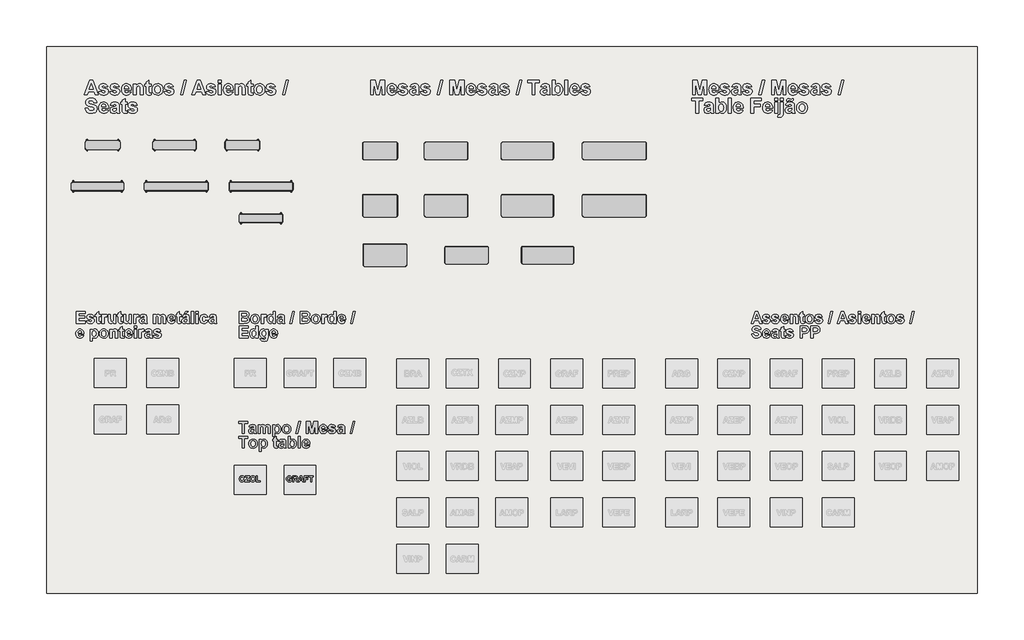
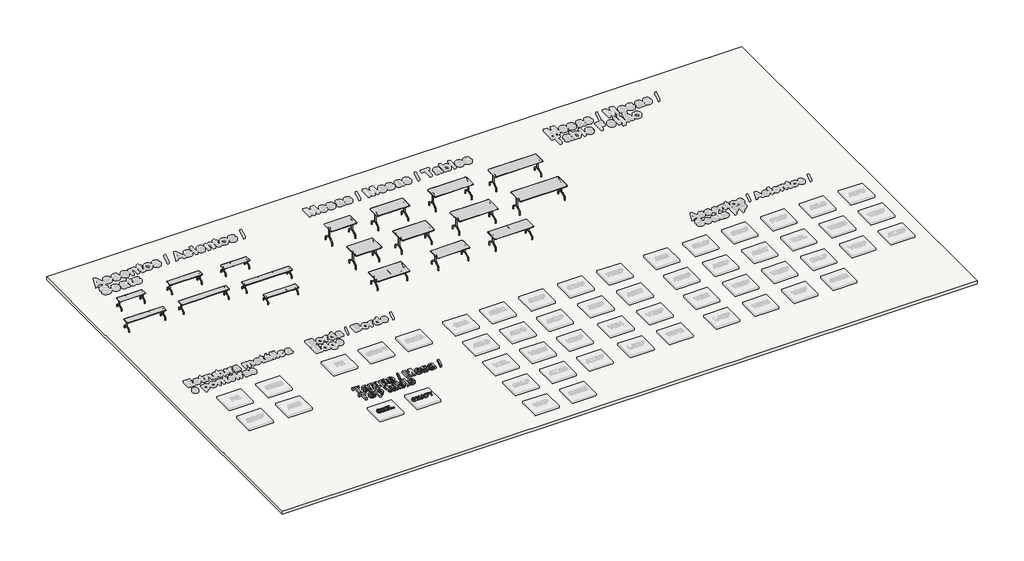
# One storey, part 1 of 11: 18 furniture elements, 3 proxies, 1 slab.
"""IFC4 building model written with IfcOpenShell, lengths in millimetres."""

from ifc_helpers import new_model, si_unit, frame, origin, origin_with_axes, place, context, project, spatial, polyline, outline, extrude, transform, mapped, element, save
from components import furniture_0498835a, furniture_3e3c8377, furniture_5cd1a622, furniture_715b6826, furniture_a52aa003, furniture_f09781c6, furniture_1bd29a56, furniture_cf2eff68, furniture_0d78d3c2, furniture_bbbb178f, furniture_98b8466e, furniture_68d484b3, furniture_bdeea453, furniture_ba796456, furniture_8e6bd64b, furniture_b150109e, furniture_8f38371c, furniture_67700c2b, furniture_3dd5c9f9, furniture_42522983, furniture_62db9295, furniture_35113301, furniture_2471150e, furniture_5e96de39, furniture_81a5dd6e, furniture_9fd08052, furniture_0e918ce6, furniture_eb693cab, furniture_b02cb5bb, furniture_99233190, furniture_7e1a75bf, furniture_32a7f20c, furniture_1859f8d8, furniture_198ba263, furniture_75466551, furniture_416f7891

model = new_model("IFC4")

# Units and contexts
model_context = context("Model", 3, world=origin())
ifc_project = project(units=[si_unit("LENGTHUNIT", "METRE", prefix="MILLI")], contexts=[model_context])

# Site, building, storey
site = spatial("IfcSite", under=ifc_project)
building = spatial("IfcBuilding", under=site)
storey = spatial("IfcBuildingStorey", under=building, Name="Biblioteca BIM Revit Metadil - Refeitório", Elevation=0.0)

# Proxies
placement = place(None, origin())
element("IfcBuildingElementProxy", 1, Name="Arial 200mm", ObjectType="Arial 200mm", at=placement, inside=storey, context=model_context, shape_type="SweptSolid", body=[
    extrude(outline(polyline([(-10247.6915587, -1613.7310089), (-10247.6915587, -1578.1029029), (-10160.2407529, -1578.1029029), (-10160.2407529, -1659.480736), (-10175.8533534, -1671.4179228), (-10197.1846697, -1681.8242144), (-10221.5271683, -1689.0548475), (-10246.1733155, -1691.4650585), (-10275.6398847, -1688.1122715), (-10301.0831096, -1678.0539106), (-10321.6046962, -1661.7644267), (-10336.3063508, -1639.7182709), (-10345.1501172, -1613.6993789), (-10348.0980393, -1585.4916863), (-10344.7642304, -1555.4747539), (-10334.7628036, -1528.9877369), (-10318.3341474, -1507.1440135), (-10295.7186504, -1491.056962), (-10273.7294288, -1483.4657463), (-10246.9324371, -1480.935341), (-10213.1705049, -1485.0219455), (-10187.69565, -1497.281759), (-10170.1662676, -1516.7532274), (-10160.2407529, -1542.4747969), (-10199.1077777, -1548.9526343), (-10205.6488753, -1535.5098564), (-10216.1627091, -1525.2427371), (-10230.2191103, -1518.7332695), (-10247.38791, -1516.563447), (-10272.8311349, -1520.8018758), (-10292.4797317, -1533.5171623), (-10305.0431938, -1554.582786), (-10309.2310145, -1583.8722269), (-10305.0684979, -1615.3567943), (-10292.5809479, -1637.845771), (-10273.3372159, -1651.3391571), (-10248.9061532, -1655.8369524), (-10222.1597696, -1650.9026622), (-10199.1077777, -1638.9338453), (-10199.1077777, -1613.7310089), (-10247.6915587, -1613.7310089)])), frame((0.0, 0.0, 100.0), z_axis=(0.0, 0.0, 1.0), x_axis=(1.0, 0.0, 0.0)), (0.0, 0.0, 1.0), 50.0),
    extrude(outline(polyline([(-10121.3737282, -1688.2261397), (-10121.3737282, -1484.1742597), (-10035.5423818, -1484.1742597), (-10007.5814037, -1485.5533306), (-9988.476844, -1489.6905432), (-9975.2681286, -1497.3576711), (-9964.9946832, -1509.326488), (-9958.3903255, -1524.4709635), (-9956.1888729, -1541.6650672), (-9959.3708576, -1562.730691), (-9968.9168114, -1579.7729704), (-9984.8014304, -1592.0201318), (-10006.9994105, -1598.7004017), (-9986.6043441, -1615.704725), (-9964.9440751, -1648.6506015), (-9939.9942793, -1688.2261397), (-9985.3897496, -1688.2261397), (-10014.944883, -1641.6160749), (-10038.1486993, -1613.9587454), (-10051.4080228, -1606.1397932), (-10073.5996769, -1604.0142528), (-10082.5067034, -1604.0142528), (-10082.5067034, -1688.2261397), (-10121.3737282, -1688.2261397)]), holes=[polyline([(-10082.5067034, -1568.3861467), (-10050.4717729, -1568.3861467), (-10011.579444, -1566.0328698), (-9999.4334988, -1557.935573), (-9995.0558977, -1543.5881752), (-9996.4982287, -1534.851951), (-10000.8252217, -1527.9755748), (-10017.1210316, -1520.4602711), (-10048.7004892, -1519.8023658), (-10082.5067034, -1519.8023658), (-10082.5067034, -1568.3861467)])]), frame((0.0, 0.0, 100.0), z_axis=(0.0, 0.0, 1.0), x_axis=(1.0, 0.0, 0.0)), (0.0, 0.0, 1.0), 50.0),
    extrude(outline(polyline([(-9745.6591555, -1688.2261397), (-9786.4998964, -1688.2261397), (-9802.4920576, -1642.8812775), (-9879.5682017, -1642.8812775), (-9895.3579306, -1688.2261397), (-9936.7553606, -1688.2261397), (-9862.2602298, -1484.1742597), (-9820.8627998, -1484.1742597), (-9745.6591555, -1688.2261397)]), holes=[polyline([(-9814.9416515, -1607.2531715), (-9841.207258, -1532.7580407), (-9867.1186079, -1607.2531715), (-9814.9416515, -1607.2531715)])]), frame((0.0, 0.0, 100.0), z_axis=(0.0, 0.0, 1.0), x_axis=(1.0, 0.0, 0.0)), (0.0, 0.0, 1.0), 50.0),
    extrude(outline(polyline([(-9726.2256431, -1688.2261397), (-9726.2256431, -1484.1742597), (-9586.9521377, -1484.1742597), (-9586.9521377, -1519.8023658), (-9687.3586184, -1519.8023658), (-9687.3586184, -1565.147228), (-9599.9078126, -1565.147228), (-9599.9078126, -1600.775334), (-9687.3586184, -1600.775334), (-9687.3586184, -1688.2261397), (-9726.2256431, -1688.2261397)])), frame((0.0, 0.0, 100.0), z_axis=(0.0, 0.0, 1.0), x_axis=(1.0, 0.0, 0.0)), (0.0, 0.0, 1.0), 50.0),
    extrude(outline(polyline([(-9509.2180882, -1688.2261397), (-9509.2180882, -1519.8023658), (-9567.5186253, -1519.8023658), (-9567.5186253, -1484.1742597), (-9412.0505263, -1484.1742597), (-9412.0505263, -1519.8023658), (-9470.3510634, -1519.8023658), (-9470.3510634, -1688.2261397), (-9509.2180882, -1688.2261397)])), frame((0.0, 0.0, 100.0), z_axis=(0.0, 0.0, 1.0), x_axis=(1.0, 0.0, 0.0)), (0.0, 0.0, 1.0), 50.0),
])
element("IfcBuildingElementProxy", 2, Name="Arial 200mm", ObjectType="Arial 200mm", at=placement, inside=storey, context=model_context, shape_type="SweptSolid", body=[
    extrude(outline(polyline([(-11826.7985939, -1610.4920902), (-11787.9315691, -1623.4477651), (-11800.1913826, -1652.0729746), (-11818.5494728, -1672.2592826), (-11842.8413632, -1684.2344254), (-11872.9025777, -1688.2261397), (-11892.3645571, -1686.5212792), (-11910.0109708, -1681.4066976), (-11925.8418187, -1672.8823948), (-11939.8571008, -1660.9483711), (-11951.3261626, -1646.0569361), (-11959.5183497, -1628.6604), (-11964.4336619, -1608.7587626), (-11966.0720993, -1586.3520241), (-11964.4194284, -1562.724365), (-11959.4614156, -1541.8928037), (-11951.1980609, -1523.8573402), (-11939.6293643, -1508.6179745), (-11925.3657862, -1496.5068224), (-11909.0177867, -1487.8559994), (-11890.5853659, -1482.6655056), (-11870.0685238, -1480.935341), (-11835.9586609, -1486.6414049), (-11821.560655, -1493.7739847), (-11808.9339328, -1503.7595964), (-11796.6741193, -1520.1692745), (-11787.9315691, -1542.4747969), (-11826.7985939, -1548.9526343), (-11832.7513723, -1535.5098564), (-11842.9172754, -1525.2427371), (-11856.5118776, -1518.7332695), (-11872.7507534, -1516.563447), (-11894.708345, -1520.5045532), (-11912.0985551, -1532.3278718), (-11923.4284447, -1552.9696527), (-11927.2050745, -1583.3661458), (-11923.5423129, -1615.4263805), (-11912.5540281, -1636.7070887), (-11895.6952031, -1648.6252974), (-11874.4208208, -1652.5980337), (-11858.3590735, -1650.0613024), (-11844.6885591, -1642.4511086), (-11833.9786188, -1629.3878915), (-11826.7985939, -1610.4920902)])), frame((0.0, 0.0, 100.0), z_axis=(0.0, 0.0, 1.0), x_axis=(1.0, 0.0, 0.0)), (0.0, 0.0, 1.0), 50.0),
    extrude(outline(polyline([(-11771.7369755, -1688.2261397), (-11771.7369755, -1649.359115), (-11662.3728602, -1519.8023658), (-11758.7813006, -1519.8023658), (-11758.7813006, -1484.1742597), (-11613.0299577, -1484.1742597), (-11613.0299577, -1519.8023658), (-11725.1269106, -1652.5980337), (-11609.791039, -1652.5980337), (-11609.791039, -1688.2261397), (-11771.7369755, -1688.2261397)])), frame((0.0, 0.0, 100.0), z_axis=(0.0, 0.0, 1.0), x_axis=(1.0, 0.0, 0.0)), (0.0, 0.0, 1.0), 50.0),
    extrude(outline(polyline([(-11451.0840212, -1610.4920902), (-11412.2169965, -1623.4477651), (-11424.4768099, -1652.0729746), (-11442.8349001, -1672.2592826), (-11467.1267905, -1684.2344254), (-11497.188005, -1688.2261397), (-11516.6499845, -1686.5212792), (-11534.2963981, -1681.4066976), (-11550.127246, -1672.8823948), (-11564.1425281, -1660.9483711), (-11575.61159, -1646.0569361), (-11583.803777, -1628.6604), (-11588.7190892, -1608.7587626), (-11590.3575266, -1586.3520241), (-11588.7048557, -1562.724365), (-11583.7468429, -1541.8928037), (-11575.4834882, -1523.8573402), (-11563.9147917, -1508.6179745), (-11549.6512135, -1496.5068224), (-11533.3032141, -1487.8559994), (-11514.8707933, -1482.6655056), (-11494.3539511, -1480.935341), (-11460.2440882, -1486.6414049), (-11445.8460823, -1493.7739847), (-11433.2193601, -1503.7595964), (-11420.9595466, -1520.1692745), (-11412.2169965, -1542.4747969), (-11451.0840212, -1548.9526343), (-11457.0367996, -1535.5098564), (-11467.2027027, -1525.2427371), (-11480.797305, -1518.7332695), (-11497.0361807, -1516.563447), (-11518.9937723, -1520.5045532), (-11536.3839825, -1532.3278718), (-11547.713872, -1552.9696527), (-11551.4905018, -1583.3661458), (-11547.8277402, -1615.4263805), (-11536.8394554, -1636.7070887), (-11519.9806304, -1648.6252974), (-11498.7062482, -1652.5980337), (-11482.6445008, -1650.0613024), (-11468.9739864, -1642.4511086), (-11458.2640461, -1629.3878915), (-11451.0840212, -1610.4920902)])), frame((0.0, 0.0, 100.0), z_axis=(0.0, 0.0, 1.0), x_axis=(1.0, 0.0, 0.0)), (0.0, 0.0, 1.0), 50.0),
    extrude(outline(polyline([(-11379.8278092, -1688.2261397), (-11379.8278092, -1484.1742597), (-11340.9607844, -1484.1742597), (-11340.9607844, -1652.5980337), (-11237.315385, -1652.5980337), (-11237.315385, -1688.2261397), (-11379.8278092, -1688.2261397)])), frame((0.0, 0.0, 100.0), z_axis=(0.0, 0.0, 1.0), x_axis=(1.0, 0.0, 0.0)), (0.0, 0.0, 1.0), 50.0),
])
element("IfcBuildingElementProxy", 3, Name="Arial 400mm", ObjectType="Arial 400mm", at=placement, inside=storey, context=model_context, shape_type="SweptSolid", body=[
    extrude(outline(polyline([(-11870.7179645, -15.2528463), (-11870.7179645, 321.5947017), (-11987.3190388, 321.5947017), (-11987.3190388, 392.8509137), (-11676.3828407, 392.8509137), (-11676.3828407, 321.5947017), (-11792.983915, 321.5947017), (-11792.983915, -15.2528463), (-11870.7179645, -15.2528463)])), origin_with_axes(), (0.0, 0.0, 1.0), 100.0),
    extrude(outline(polyline([(-11559.7817665, 192.0379525), (-11631.0379785, 204.9936274), (-11615.5898544, 242.342409), (-11604.781861, 256.8416311), (-11591.9179132, 268.5574075), (-11576.3464319, 277.5909542), (-11557.4158375, 284.0434876), (-11509.4773099, 289.2055144), (-11466.1314679, 286.0804639), (-11435.4882602, 276.7053124), (-11414.7895452, 262.5350429), (-11401.2771811, 245.0246386), (-11393.8377896, 217.81013), (-11391.3579925, 174.5275481), (-11391.3579925, 82.6232291), (-11387.258736, 24.7275568), (-11371.9244801, -15.2528463), (-11449.6585296, -15.2528463), (-11456.9460968, 9.4439091), (-11459.6789345, 19.2618815), (-11479.7956563, 1.3592643), (-11501.2787969, -11.4572384), (-11524.1789645, -19.1623224), (-11548.5467671, -21.7306837), (-11569.5396417, -20.1713215), (-11588.1855655, -15.4932348), (-11604.4845383, -7.6964236), (-11618.4365603, 3.2191121), (-11629.6177886, 16.5132287), (-11637.6043802, 31.4457828), (-11642.3963351, 48.0167742), (-11643.9936534, 66.226203), (-11641.1469475, 90.0626206), (-11632.6068298, 111.1662004), (-11618.9299894, 128.6006926), (-11600.6731154, 141.4298473), (-11575.5967993, 151.2731238), (-11541.4616324, 159.7499814), (-11497.2554525, 169.7450821), (-11469.092042, 179.0822775), (-11469.092042, 187.2807906), (-11471.508579, 207.4734245), (-11478.7581901, 220.8845724), (-11492.688071, 228.399876), (-11515.1454177, 230.9049772), (-11531.2640992, 228.7541328), (-11543.3847404, 222.3015993), (-11552.5448074, 210.4339987), (-11559.7817665, 192.0379525)]), holes=[polyline([(-11469.092042, 120.7817404), (-11512.9186611, 110.002214), (-11552.1905507, 97.7044444), (-11562.7423406, 86.6465735), (-11566.2596039, 72.9064729), (-11563.4382021, 59.1284163), (-11554.9739965, 47.3493798), (-11542.1574938, 39.264735), (-11526.2792008, 36.5698534), (-11507.2252493, 39.7075559), (-11489.1328517, 49.1206635), (-11478.252109, 59.6977575), (-11471.9260959, 72.4003919), (-11469.092042, 106.7126872), (-11469.092042, 120.7817404)])]), origin_with_axes(), (0.0, 0.0, 1.0), 100.0),
    extrude(outline(polyline([(-11320.1017804, 282.7276769), (-11242.3677309, 282.7276769), (-11242.3677309, 242.84849), (-11223.2315412, 263.1296882), (-11202.3620238, 277.6162583), (-11179.7591788, 286.3082003), (-11155.4230063, 289.2055144), (-11130.3846462, 286.3588084), (-11108.9141576, 277.8186907), (-11090.9862364, 263.509249), (-11076.5755784, 243.3545711), (-11056.6739411, 263.509249), (-11035.2287565, 277.8186907), (-11012.2653288, 286.3588084), (-10987.808962, 289.2055144), (-10958.2791326, 285.8780314), (-10933.6582895, 275.8955827), (-10914.2753852, 259.4606006), (-10900.4593725, 236.7755174), (-10894.5382242, 211.8510256), (-10892.5645081, 175.1348453), (-10892.5645081, -15.2528463), (-10970.2985576, -15.2528463), (-10970.2985576, 156.3086302), (-10972.2722737, 193.0248105), (-10978.193422, 213.9006539), (-10991.6045699, 226.6538964), (-11010.7850417, 230.9049772), (-11026.309078, 228.3619199), (-11040.8968643, 220.7327481), (-11053.0428095, 208.19459), (-11061.2413226, 190.9245741), (-11065.9099203, 165.5952175), (-11067.4661195, 128.8790372), (-11067.4661195, -15.2528463), (-11145.200169, -15.2528463), (-11145.200169, 149.2234955), (-11149.2488174, 205.752749), (-11154.3981921, 216.835924), (-11161.7490194, 224.6801803), (-11171.7314681, 229.348778), (-11184.7757072, 230.9049772), (-11201.4004698, 228.4378321), (-11216.2539487, 221.0363967), (-11228.2480696, 208.9663636), (-11236.2947583, 192.4934254), (-11240.8494878, 167.6828019), (-11242.3677309, 130.5997128), (-11242.3677309, -15.2528463), (-11320.1017804, -15.2528463), (-11320.1017804, 282.7276769)])), origin_with_axes(), (0.0, 0.0, 1.0), 100.0),
    extrude(outline(polyline([(-10814.8304586, 282.7276769), (-10737.096409, 282.7276769), (-10737.096409, 239.8120037), (-10721.0283356, 259.7769012), (-10700.1524923, 275.541326), (-10675.5822572, 285.7894673), (-10648.4310088, 289.2055144), (-10624.6167323, 286.6656201), (-10602.6686297, 279.0459373), (-10582.586701, 266.3464659), (-10564.3709461, 248.5672059), (-10549.2486117, 226.2585206), (-10538.4469443, 199.9707729), (-10531.9659438, 169.7039631), (-10529.8056103, 135.4580909), (-10532.0355299, 100.2411757), (-10538.7252888, 69.1867772), (-10549.874887, 42.2948953), (-10565.4843244, 19.5655301), (-10584.2694205, 1.4984365), (-10604.9459944, -11.4066303), (-10627.5140463, -19.1496704), (-10651.9735762, -21.7306837), (-10675.0255681, -19.3267987), (-10695.8001952, -12.1151437), (-10715.9422211, 0.9417474), (-10737.096409, 20.8813408), (-10737.096409, -125.3760831), (-10814.8304586, -125.3760831), (-10814.8304586, 282.7276769)]), holes=[polyline([(-10737.096409, 138.899442), (-10732.2253789, 93.4027555), (-10726.1365913, 75.7784829), (-10717.6122885, 61.5702574), (-10695.9899756, 42.8199544), (-10683.5751748, 38.1323787), (-10670.0912778, 36.5698534), (-10645.5083907, 42.3012213), (-10625.4043209, 59.4953251), (-10617.5885317, 72.7957677), (-10612.0058251, 89.771624), (-10607.5396598, 134.7495774), (-10612.1323454, 177.2603858), (-10617.8732023, 193.8092361), (-10625.910402, 207.220384), (-10646.4952488, 224.9838289), (-10671.5083047, 230.9049772), (-10697.3563945, 225.0976972), (-10718.4220182, 207.675857), (-10726.5920642, 194.6664109), (-10732.4278113, 178.8671931), (-10737.096409, 138.899442)])]), origin_with_axes(), (0.0, 0.0, 1.0), 100.0),
    extrude(outline(polyline([(-10490.9385855, 137.9884962), (-10486.1434676, 176.5392203), (-10471.7581137, 213.8500458), (-10448.5922536, 246.201277), (-10417.4556169, 269.8732182), (-10380.2839636, 284.3724403), (-10339.0130539, 289.2055144), (-10307.0255684, 286.4663507), (-10278.0682432, 278.2488596), (-10252.1410784, 264.5530411), (-10229.2440738, 245.3788953), (-10210.5348899, 222.0169288), (-10197.1711871, 195.7576482), (-10189.1529655, 166.6010536), (-10186.4802249, 134.547145), (-10189.1814325, 102.2370329), (-10197.2850554, 72.8179087), (-10210.7910934, 46.2897726), (-10229.6995467, 22.6526245), (-10252.7009305, 3.2349272), (-10278.4857601, -10.6348567), (-10307.0540355, -18.956727), (-10338.4057566, -21.7306837), (-10378.044555, -17.1126941), (-10415.7855494, -3.2587253), (-10448.1747367, 19.527574), (-10471.7581137, 50.9425553), (-10486.1434676, 90.5687016), (-10490.9385855, 137.9884962)]), holes=[polyline([(-10413.204536, 133.7374153), (-10407.8274249, 92.175509), (-10401.1060359, 75.5222794), (-10391.6960913, 61.6208655), (-10380.3124307, 50.6610477), (-10367.6698934, 42.8326064), (-10353.7684795, 38.1355417), (-10338.608189, 36.5698534), (-10323.4542245, 38.1355417), (-10309.5717887, 42.8326064), (-10296.9608815, 50.6610477), (-10285.6215029, 61.6208655), (-10276.2558405, 75.5602354), (-10269.5660816, 92.3273333), (-10264.2142744, 134.3447126), (-10269.5660816, 175.451146), (-10276.2558405, 191.9905074), (-10285.6215029, 205.8539652), (-10296.9608815, 216.8137829), (-10309.5717887, 224.6422242), (-10323.4542245, 229.339289), (-10338.608189, 230.9049772), (-10353.7684795, 229.339289), (-10367.6698934, 224.6422242), (-10380.3124307, 216.8137829), (-10391.6960913, 205.8539652), (-10401.1060359, 191.9525513), (-10407.8274249, 175.2993217), (-10413.204536, 133.7374153)])]), origin_with_axes(), (0.0, 0.0, 1.0), 100.0),
    extrude(outline(polyline([(-10012.9956404, -15.2528463), (-9915.8280785, 392.8509137), (-9856.1105145, 392.8509137), (-9953.2780764, -15.2528463), (-10012.9956404, -15.2528463)])), origin_with_axes(), (0.0, 0.0, 1.0), 100.0),
    extrude(outline(polyline([(-9661.7753907, -15.2528463), (-9661.7753907, 392.8509137), (-9528.5748579, 392.8509137), (-9464.2013481, 114.5063354), (-9399.8278384, 392.8509137), (-9266.6273056, 392.8509137), (-9266.6273056, -15.2528463), (-9344.3613551, -15.2528463), (-9347.6002739, 306.0074053), (-9418.6540535, -15.2528463), (-9509.6474266, -15.2528463), (-9580.8024224, 306.0074053), (-9584.0413411, -15.2528463), (-9661.7753907, -15.2528463)])), origin_with_axes(), (0.0, 0.0, 1.0), 100.0),
    extrude(outline(polyline([(-9020.4694821, 75.4368782), (-8942.7354326, 62.4812033), (-8961.6628639, 26.2078439), (-8974.3148902, 11.7623929), (-8989.0924569, -0.222239), (-9005.9259779, -9.6321836), (-9024.745867, -16.3535725), (-9068.3447496, -21.7306837), (-9103.5490127, -18.5613511), (-9133.8569417, -9.0533534), (-9159.2685365, 6.7933095), (-9179.7837972, 28.9786376), (-9192.2713471, 50.6072766), (-9201.1910256, 74.9054931), (-9206.5428328, 101.8732871), (-9208.3267685, 131.5106587), (-9205.9608395, 166.4555553), (-9198.8630528, 197.4024116), (-9187.0334082, 224.3512276), (-9170.4719058, 247.3020033), (-9150.2919239, 265.6347894), (-9127.6068407, 278.7296366), (-9102.4166564, 286.5865449), (-9074.7213708, 289.2055144), (-9043.9453169, 286.5169588), (-9016.5979621, 278.451292), (-8992.6793064, 265.0085141), (-8972.1893498, 246.188625), (-8955.8619099, 221.8144963), (-8944.4308041, 191.7089998), (-8937.8960325, 155.8721353), (-8936.2575951, 114.3039029), (-9130.5927189, 114.3039029), (-9125.6078206, 81.5604589), (-9112.2725849, 57.0155279), (-9092.611336, 41.681272), (-9068.6483982, 36.5698534), (-9052.3272843, 38.8725222), (-9038.7896162, 45.7805286), (-9028.13661, 57.7999535), (-9020.4694821, 75.4368782)]), holes=[polyline([(-9013.9916447, 159.6487652), (-9018.7235025, 190.380537), (-9031.2996166, 212.7366675), (-9049.5691426, 226.3628998), (-9071.3812359, 230.9049772), (-9094.4079238, 226.1225113), (-9113.0823146, 211.7751135), (-9125.329476, 189.1279864), (-9129.2769082, 159.6487652), (-9013.9916447, 159.6487652)])]), origin_with_axes(), (0.0, 0.0, 1.0), 100.0),
    extrude(outline(polyline([(-8910.3462453, 68.9590407), (-8832.6121958, 81.9147156), (-8825.2107604, 62.3293789), (-8812.7232105, 48.1085014), (-8794.719377, 39.4545154), (-8770.7690913, 36.5698534), (-8744.7818293, 39.3279952), (-8726.1327425, 47.6024203), (-8718.5415268, 56.6106631), (-8716.0111215, 68.2505272), (-8721.3755806, 82.8256615), (-8746.7808494, 93.0484988), (-8821.8579734, 112.9374841), (-8863.2807075, 131.1057939), (-8878.2037725, 144.3208353), (-8888.8631047, 159.8765016), (-8895.2587039, 177.7727928), (-8897.3905704, 198.0097089), (-8895.5623526, 216.5259493), (-8890.0776992, 233.5112946), (-8880.9366102, 248.9657447), (-8868.1390856, 262.8892997), (-8851.495345, 274.4026436), (-8830.815608, 282.6264607), (-8806.0998747, 287.5607509), (-8777.3481449, 289.2055144), (-8726.360479, 283.8916633), (-8706.5031237, 277.2493495), (-8690.4034203, 267.9501102), (-8677.289595, 256.0445535), (-8666.3898744, 241.5832874), (-8651.2327469, 204.9936274), (-8728.9667964, 192.0379525), (-8734.6855123, 208.662715), (-8743.9467955, 220.8845724), (-8757.3073353, 228.399876), (-8775.3238207, 230.9049772), (-8797.4648667, 228.7794368), (-8812.2677375, 222.4028156), (-8817.809325, 215.418897), (-8819.6565209, 206.6130867), (-8817.809325, 198.9965669), (-8812.2677375, 192.5440335), (-8790.1140395, 183.2574462), (-8743.4913226, 170.7825483), (-8693.5284708, 155.0687316), (-8661.3543679, 136.0653882), (-8651.2580509, 124.5583702), (-8644.046396, 110.9890721), (-8639.719403, 95.3574936), (-8638.277072, 77.6636348), (-8640.3678193, 57.9865709), (-8646.6400614, 39.745512), (-8657.0937981, 22.9404581), (-8671.7290295, 7.5714092), (-8690.4635174, -5.2482565), (-8713.2150237, -14.4051605), (-8739.9835483, -19.8993029), (-8770.7690913, -21.7306837), (-8798.9736209, -20.2061146), (-8824.072078, -15.632407), (-8846.0644627, -8.0095612), (-8864.950775, 2.662423), (-8880.7879489, 15.9533766), (-8893.6329186, 31.4331307), (-8903.485684, 49.1016855), (-8910.3462453, 68.9590407)])), origin_with_axes(), (0.0, 0.0, 1.0), 100.0),
    extrude(outline(polyline([(-8502.2424853, 192.0379525), (-8573.4986974, 204.9936274), (-8558.0505733, 242.342409), (-8547.2425798, 256.8416311), (-8534.3786321, 268.5574075), (-8518.8071507, 277.5909542), (-8499.8765564, 284.0434876), (-8451.9380288, 289.2055144), (-8408.5921867, 286.0804639), (-8377.9489791, 276.7053124), (-8357.250264, 262.5350429), (-8343.7379, 245.0246386), (-8336.2985085, 217.81013), (-8333.8187114, 174.5275481), (-8333.8187114, 82.6232291), (-8329.7194548, 24.7275568), (-8314.385199, -15.2528463), (-8392.1192485, -15.2528463), (-8399.4068156, 9.4439091), (-8402.1396533, 19.2618815), (-8422.2563751, 1.3592643), (-8443.7395158, -11.4572384), (-8466.6396833, -19.1623224), (-8491.007486, -21.7306837), (-8512.0003606, -20.1713215), (-8530.6462843, -15.4932348), (-8546.9452572, -7.6964236), (-8560.8972792, 3.2191121), (-8572.0785074, 16.5132287), (-8580.065099, 31.4457828), (-8584.857054, 48.0167742), (-8586.4543723, 66.226203), (-8583.6076664, 90.0626206), (-8575.0675486, 111.1662004), (-8561.3907082, 128.6006926), (-8543.1338343, 141.4298473), (-8518.0575182, 151.2731238), (-8483.9223512, 159.7499814), (-8439.7161714, 169.7450821), (-8411.5527609, 179.0822775), (-8411.5527609, 187.2807906), (-8413.9692979, 207.4734245), (-8421.218909, 220.8845724), (-8435.1487899, 228.399876), (-8457.6061366, 230.9049772), (-8473.7248181, 228.7541328), (-8485.8454592, 222.3015993), (-8495.0055263, 210.4339987), (-8502.2424853, 192.0379525)]), holes=[polyline([(-8411.5527609, 120.7817404), (-8455.3793799, 110.002214), (-8494.6512695, 97.7044444), (-8505.2030595, 86.6465735), (-8508.7203228, 72.9064729), (-8505.8989209, 59.1284163), (-8497.4347153, 47.3493798), (-8484.6182127, 39.264735), (-8468.7399197, 36.5698534), (-8449.6859681, 39.7075559), (-8431.5935705, 49.1206635), (-8420.7128279, 59.6977575), (-8414.3868148, 72.4003919), (-8411.5527609, 106.7126872), (-8411.5527609, 120.7817404)])]), origin_with_axes(), (0.0, 0.0, 1.0), 100.0),
    extrude(outline(polyline([(-8140.9006145, -15.2528463), (-8043.7330526, 392.8509137), (-7984.0154885, 392.8509137), (-8081.1830504, -15.2528463), (-8140.9006145, -15.2528463)])), origin_with_axes(), (0.0, 0.0, 1.0), 100.0),
    extrude(outline(polyline([(-11870.7179645, -518.8982456), (-11870.7179645, -182.0506977), (-11987.3190388, -182.0506977), (-11987.3190388, -110.7944856), (-11676.3828407, -110.7944856), (-11676.3828407, -182.0506977), (-11792.983915, -182.0506977), (-11792.983915, -518.8982456), (-11870.7179645, -518.8982456)])), origin_with_axes(), (0.0, 0.0, 1.0), 100.0),
    extrude(outline(polyline([(-11643.9936534, -365.6569032), (-11639.1985355, -327.1061791), (-11624.8131816, -289.7953536), (-11601.6473214, -257.4441224), (-11570.5106847, -233.7721812), (-11533.3390315, -219.272959), (-11492.0681218, -214.439885), (-11460.0806363, -217.1790487), (-11431.1233111, -225.3965398), (-11405.1961462, -239.0923582), (-11382.2991417, -258.2665041), (-11363.5899578, -281.6284706), (-11350.226255, -307.8877512), (-11342.2080334, -337.0443458), (-11339.5352928, -369.0982544), (-11342.2365004, -401.4083665), (-11350.3401233, -430.8274906), (-11363.8461613, -457.3556267), (-11382.7546146, -480.9927749), (-11405.7559984, -500.4104722), (-11431.540828, -514.280256), (-11460.1091033, -522.6021263), (-11491.4608245, -525.3760831), (-11531.0996229, -520.7580935), (-11568.8406173, -506.9041247), (-11601.2298046, -484.1178254), (-11624.8131816, -452.7028441), (-11639.1985355, -413.0766977), (-11643.9936534, -365.6569032)]), holes=[polyline([(-11566.2596039, -369.907984), (-11560.8824927, -411.4698904), (-11554.1611038, -428.12312), (-11544.7511592, -442.0245339), (-11533.3674986, -452.9843517), (-11520.7249613, -460.8127929), (-11506.8235474, -465.5098577), (-11491.6632569, -467.0755459), (-11476.5092924, -465.5098577), (-11462.6268566, -460.8127929), (-11450.0159494, -452.9843517), (-11438.6765708, -442.0245339), (-11429.3109084, -428.0851639), (-11422.6211495, -411.3180661), (-11417.2693423, -369.3006868), (-11422.6211495, -328.1942534), (-11429.3109084, -311.654892), (-11438.6765708, -297.7914342), (-11450.0159494, -286.8316164), (-11462.6268566, -279.0031752), (-11476.5092924, -274.3061104), (-11491.6632569, -272.7404221), (-11506.8235474, -274.3061104), (-11520.7249613, -279.0031752), (-11533.3674986, -286.8316164), (-11544.7511592, -297.7914342), (-11554.1611038, -311.6928481), (-11560.8824927, -328.3460777), (-11566.2596039, -369.907984)])]), origin_with_axes(), (0.0, 0.0, 1.0), 100.0),
    extrude(outline(polyline([(-11281.2347557, -220.9177225), (-11203.5007062, -220.9177225), (-11203.5007062, -263.8333956), (-11187.4326328, -243.8684981), (-11166.5567894, -228.1040734), (-11141.9865543, -217.8559321), (-11114.8353059, -214.439885), (-11091.0210294, -216.9797793), (-11069.0729268, -224.5994621), (-11048.9909981, -237.2989335), (-11030.7752433, -255.0781934), (-11015.6529088, -277.3868788), (-11004.8512414, -303.6746264), (-10998.3702409, -333.9414363), (-10996.2099074, -368.1873085), (-10998.4398271, -403.4042236), (-11005.129586, -434.4586222), (-11016.2791841, -461.350504), (-11031.8886216, -484.0798693), (-11050.6737176, -502.1469628), (-11071.3502916, -515.0520296), (-11093.9183435, -522.7950697), (-11118.3778733, -525.3760831), (-11141.4298652, -522.9721981), (-11162.2044923, -515.7605431), (-11182.3465182, -502.703652), (-11203.5007062, -482.7640585), (-11203.5007062, -629.0214824), (-11281.2347557, -629.0214824), (-11281.2347557, -220.9177225)]), holes=[polyline([(-11203.5007062, -364.7459573), (-11198.629676, -410.2426439), (-11192.5408884, -427.8669165), (-11184.0165857, -442.075142), (-11162.3942727, -460.825445), (-11149.9794719, -465.5130207), (-11136.4955749, -467.0755459), (-11111.9126878, -461.344178), (-11091.8086181, -444.1500743), (-11083.9928288, -430.8496317), (-11078.4101222, -413.8737754), (-11073.943957, -368.8958219), (-11078.5366425, -326.3850136), (-11084.2774994, -309.8361632), (-11092.3146991, -296.4250154), (-11112.8995459, -278.6615704), (-11137.9126019, -272.7404221), (-11163.7606916, -278.5477022), (-11184.8263154, -295.9695424), (-11192.9963613, -308.9789884), (-11198.8321085, -324.7782063), (-11203.5007062, -364.7459573)])]), origin_with_axes(), (0.0, 0.0, 1.0), 100.0),
    extrude(outline(polyline([(-10639.9288471, -220.9177225), (-10639.9288471, -279.2182596), (-10698.2293843, -279.2182596), (-10698.2293843, -407.0543332), (-10696.4581006, -452.2473711), (-10688.4114119, -462.8750732), (-10673.1277641, -467.0755459), (-10636.6899284, -459.5855464), (-10633.4510097, -514.8495972), (-10663.436312, -522.7444616), (-10697.116006, -525.3760831), (-10717.814721, -523.5541913), (-10736.3878956, -518.0885159), (-10751.5576751, -509.7381786), (-10762.0462049, -499.2623008), (-10768.9668633, -485.6740246), (-10773.4330285, -467.9864918), (-10775.9634338, -411.4066303), (-10775.9634338, -279.2182596), (-10814.8304586, -279.2182596), (-10814.8304586, -220.9177225), (-10775.9634338, -220.9177225), (-10775.9634338, -162.6171853), (-10698.2293843, -117.2723231), (-10698.2293843, -220.9177225), (-10639.9288471, -220.9177225)])), origin_with_axes(), (0.0, 0.0, 1.0), 100.0),
    extrude(outline(polyline([(-10529.8056103, -311.6074469), (-10601.0618224, -298.651772), (-10585.6136983, -261.3029904), (-10574.8057048, -246.8037682), (-10561.9417571, -235.0879919), (-10546.3702757, -226.0544451), (-10527.4396814, -219.6019117), (-10479.5011538, -214.439885), (-10436.1553117, -217.5649355), (-10405.512104, -226.940087), (-10384.813389, -241.1103564), (-10371.301025, -258.6207608), (-10363.8616335, -285.8352693), (-10361.3818363, -329.1178513), (-10361.3818363, -421.0221702), (-10357.2825798, -478.9178425), (-10341.948324, -518.8982456), (-10419.6823735, -518.8982456), (-10426.9699406, -494.2014903), (-10429.7027783, -484.3835179), (-10449.8195001, -502.2861351), (-10471.3026407, -515.1026377), (-10494.2028083, -522.8077217), (-10518.570611, -525.3760831), (-10539.5634856, -523.8167208), (-10558.2094093, -519.1386341), (-10574.5083822, -511.3418229), (-10588.4604042, -500.4262872), (-10599.6416324, -487.1321706), (-10607.628224, -472.1996166), (-10612.420179, -455.6286252), (-10614.0174973, -437.4191963), (-10611.1707914, -413.5827788), (-10602.6306736, -392.4791989), (-10588.9538332, -375.0447067), (-10570.6969593, -362.2155521), (-10545.6206432, -352.3722756), (-10511.4854762, -343.895418), (-10467.2792964, -333.9003172), (-10439.1158859, -324.5631218), (-10439.1158859, -316.3646088), (-10441.5324229, -296.1719748), (-10448.782034, -282.760827), (-10462.7119149, -275.2455233), (-10485.1692616, -272.7404221), (-10501.2879431, -274.8912666), (-10513.4085842, -281.3438), (-10522.5686513, -293.2114007), (-10529.8056103, -311.6074469)]), holes=[polyline([(-10439.1158859, -382.863659), (-10482.9425049, -393.6431854), (-10522.2143945, -405.9409549), (-10532.7661845, -416.9988259), (-10536.2834478, -430.7389264), (-10533.4620459, -444.5169831), (-10524.9978403, -456.2960195), (-10512.1813377, -464.3806643), (-10496.3030447, -467.0755459), (-10477.2490931, -463.9378434), (-10459.1566955, -454.5247359), (-10448.2759529, -443.9476419), (-10441.9499398, -431.2450075), (-10439.1158859, -396.9327122), (-10439.1158859, -382.863659)])]), origin_with_axes(), (0.0, 0.0, 1.0), 100.0),
    extrude(outline(polyline([(-10283.6477868, -518.8982456), (-10283.6477868, -110.7944856), (-10205.9137373, -110.7944856), (-10205.9137373, -255.2300178), (-10187.2773026, -237.3843347), (-10166.9961044, -224.6374182), (-10145.0701429, -216.9892683), (-10121.4994179, -214.439885), (-10096.030889, -216.9007041), (-10072.8650288, -224.2831615), (-10052.0018375, -236.587257), (-10033.4413149, -253.8129908), (-10018.2082753, -275.6440622), (-10007.3275327, -301.7641704), (-10000.7990871, -332.1733156), (-9998.6229386, -366.8714977), (-10000.7864351, -402.7463183), (-10007.2769246, -434.2561897), (-10018.094407, -461.4011122), (-10033.2388825, -484.1810855), (-10051.4704524, -502.2038969), (-10071.5492181, -515.0773337), (-10093.4751797, -522.8013957), (-10117.2483371, -525.3760831), (-10141.3757512, -522.2636846), (-10165.1742127, -512.9264892), (-10187.1760864, -497.4657131), (-10205.9137373, -475.9825724), (-10205.9137373, -518.8982456), (-10283.6477868, -518.8982456)]), holes=[polyline([(-10205.9137373, -364.2398763), (-10202.3205618, -405.6879144), (-10191.5410354, -434.6863586), (-10180.6855969, -448.8566281), (-10168.1600909, -458.9782491), (-10153.9645174, -465.0512217), (-10138.0988764, -467.0755459), (-10114.3763271, -461.331526), (-10094.4240816, -444.0994662), (-10086.5197282, -430.9666629), (-10080.8737615, -414.5443328), (-10076.3569881, -371.831092), (-10080.8990655, -326.5494899), (-10086.5766623, -309.4218094), (-10094.5252979, -295.9695424), (-10115.2619689, -278.5477022), (-10141.1353627, -272.7404221), (-10166.6291957, -278.4085299), (-10187.4417789, -295.4128533), (-10195.5232607, -308.2167039), (-10201.2957477, -323.9558246), (-10205.9137373, -364.2398763)])]), origin_with_axes(), (0.0, 0.0, 1.0), 100.0),
    extrude(outline(polyline([(-9940.3224014, -518.8982456), (-9940.3224014, -110.7944856), (-9862.5883519, -110.7944856), (-9862.5883519, -518.8982456), (-9940.3224014, -518.8982456)])), origin_with_axes(), (0.0, 0.0, 1.0), 100.0),
    extrude(outline(polyline([(-9616.4305284, -428.2085212), (-9538.6964789, -441.1641961), (-9557.6239103, -477.4375555), (-9570.2759365, -491.8830065), (-9585.0535032, -503.8676384), (-9601.8870242, -513.2775829), (-9620.7069133, -519.9989719), (-9664.3057959, -525.3760831), (-9699.5100591, -522.2067505), (-9729.817988, -512.6987527), (-9755.2295828, -496.8520898), (-9775.7448435, -474.6667617), (-9788.2323934, -453.0381228), (-9797.152072, -428.7399063), (-9802.5038791, -401.7721123), (-9804.2878148, -372.1347407), (-9801.9218859, -337.1898441), (-9794.8240991, -306.2429878), (-9782.9944545, -279.2941718), (-9766.4329521, -256.3433961), (-9746.2529702, -238.01061), (-9723.5678871, -224.9157628), (-9698.3777027, -217.0588544), (-9670.6824172, -214.439885), (-9639.9063632, -217.1284406), (-9612.5590084, -225.1941073), (-9588.6403527, -238.6368853), (-9568.1503961, -257.4567744), (-9551.8229562, -281.830903), (-9540.3918504, -311.9363996), (-9533.8570789, -347.773264), (-9532.2186415, -389.3414964), (-9726.5537653, -389.3414964), (-9721.5688669, -422.0849405), (-9708.2336312, -446.6298715), (-9688.5723823, -461.9641273), (-9664.6094446, -467.0755459), (-9648.2883306, -464.7728772), (-9634.7506625, -457.8648708), (-9624.0976564, -445.8454458), (-9616.4305284, -428.2085212)]), holes=[polyline([(-9609.952691, -343.9966342), (-9614.6845488, -313.2648623), (-9627.2606629, -290.9087319), (-9645.5301889, -277.2824996), (-9667.3422822, -272.7404221), (-9690.3689701, -277.5228881), (-9709.0433609, -291.8702859), (-9721.2905223, -314.5174129), (-9725.2379545, -343.9966342), (-9609.952691, -343.9966342)])]), origin_with_axes(), (0.0, 0.0, 1.0), 100.0),
])

# Furniture
furniture_shape = furniture_0498835a(model_context)
furniture_2_shape = furniture_3e3c8377(model_context)
element("IfcFurniture", 4, ObjectType="Banco para refeitório : Banco para refeitório 120x30cm cód 40469.5", at=placement, inside=storey, context=model_context, shape_type="MappedRepresentation", body=[
    mapped(furniture_shape, transform((-16678.0635585, 9934.0148626, 0.0), x_axis=(1.0, 0.0, 0.0), y_axis=(0.0, 1.0, 0.0), z_axis=(0.0, 0.0, 1.0))),
    mapped(furniture_2_shape, transform((-16678.0635585, 9934.0148626, 0.0), x_axis=(1.0, 0.0, 0.0), y_axis=(0.0, 1.0, 0.0), z_axis=(0.0, 0.0, 1.0))),
])
furniture_3_shape = furniture_5cd1a622(model_context)
furniture_4_shape = furniture_715b6826(model_context)
element("IfcFurniture", 5, ObjectType="Banco para refeitório : Banco para refeitório 150x30cm cód 40470.6", at=placement, inside=storey, context=model_context, shape_type="MappedRepresentation", body=[
    mapped(furniture_3_shape, transform((-14198.0635585, 9934.0148626, 0.0), x_axis=(1.0, 0.0, 0.0), y_axis=(0.0, 1.0, 0.0), z_axis=(0.0, 0.0, 1.0))),
    mapped(furniture_4_shape, transform((-14198.0635585, 9934.0148626, 0.0), x_axis=(1.0, 0.0, 0.0), y_axis=(0.0, 1.0, 0.0), z_axis=(0.0, 0.0, 1.0))),
])
furniture_5_shape = furniture_a52aa003(model_context)
furniture_6_shape = furniture_f09781c6(model_context)
element("IfcFurniture", 6, ObjectType="Banco para refeitório : Banco para refeitório 180x30cm cód 40471.6", at=placement, inside=storey, context=model_context, shape_type="MappedRepresentation", body=[
    mapped(furniture_5_shape, transform((-16857.1377814, 8507.2831119, 0.0), x_axis=(1.0, 0.0, 0.0), y_axis=(0.0, 1.0, 0.0), z_axis=(0.0, 0.0, 1.0))),
    mapped(furniture_6_shape, transform((-16857.1377814, 8507.2831119, 0.0), x_axis=(1.0, 0.0, 0.0), y_axis=(0.0, 1.0, 0.0), z_axis=(0.0, 0.0, 1.0))),
])
furniture_7_shape = furniture_1bd29a56(model_context)
furniture_8_shape = furniture_cf2eff68(model_context)
element("IfcFurniture", 7, ObjectType="Banco para refeitório : Banco para refeitório 220x30cm cód 40472.6", at=placement, inside=storey, context=model_context, shape_type="MappedRepresentation", body=[
    mapped(furniture_7_shape, transform((-14137.1377814, 8507.2831119, 0.0), x_axis=(1.0, 0.0, 0.0), y_axis=(0.0, 1.0, 0.0), z_axis=(0.0, 0.0, 1.0))),
    mapped(furniture_8_shape, transform((-14137.1377814, 8507.2831119, 0.0), x_axis=(1.0, 0.0, 0.0), y_axis=(0.0, 1.0, 0.0), z_axis=(0.0, 0.0, 1.0))),
])
furniture_9_shape = furniture_0d78d3c2(model_context)
furniture_10_shape = furniture_bbbb178f(model_context)
element("IfcFurniture", 8, ObjectType="Banco para refeitório : Banco para refeitório 120x30cm cód 40470.4", at=placement, inside=storey, context=model_context, shape_type="MappedRepresentation", body=[
    mapped(furniture_9_shape, transform((-11858.0635585, 9934.0148626, 0.0), x_axis=(1.0, 0.0, 0.0), y_axis=(0.0, 1.0, 0.0), z_axis=(0.0, 0.0, 1.0))),
    mapped(furniture_10_shape, transform((-11858.0635585, 9934.0148626, 0.0), x_axis=(1.0, 0.0, 0.0), y_axis=(0.0, 1.0, 0.0), z_axis=(0.0, 0.0, 1.0))),
])
furniture_11_shape = furniture_98b8466e(model_context)
furniture_12_shape = furniture_68d484b3(model_context)
element("IfcFurniture", 9, ObjectType="Banco para refeitório : Banco para refeitório 220x30cm cód 40473.4", at=placement, inside=storey, context=model_context, shape_type="MappedRepresentation", body=[
    mapped(furniture_11_shape, transform((-11217.1377814, 8507.2831119, 0.0), x_axis=(1.0, 0.0, 0.0), y_axis=(0.0, 1.0, 0.0), z_axis=(0.0, 0.0, 1.0))),
    mapped(furniture_12_shape, transform((-11217.1377814, 8507.2831119, 0.0), x_axis=(1.0, 0.0, 0.0), y_axis=(0.0, 1.0, 0.0), z_axis=(0.0, 0.0, 1.0))),
])
furniture_13_shape = furniture_bdeea453(model_context)
furniture_14_shape = furniture_ba796456(model_context)
element("IfcFurniture", 10, ObjectType="Mesa para refeitório : Mesa para refeitório 120x60cm cód 70469.6", at=placement, inside=storey, context=model_context, shape_type="MappedRepresentation", body=[
    mapped(furniture_13_shape, transform((-7113.4814049, 9735.7857422, 0.0), x_axis=(1.0, 0.0, 0.0), y_axis=(0.0, 1.0, 0.0), z_axis=(0.0, 0.0, 1.0))),
    mapped(furniture_14_shape, transform((-7113.4814049, 9735.7857422, 0.0), x_axis=(1.0, 0.0, 0.0), y_axis=(0.0, 1.0, 0.0), z_axis=(0.0, 0.0, 1.0))),
])
furniture_15_shape = furniture_8e6bd64b(model_context)
furniture_16_shape = furniture_b150109e(model_context)
element("IfcFurniture", 11, ObjectType="Mesa para refeitório : Mesa para refeitório 150x60cm cód 70470.6", at=placement, inside=storey, context=model_context, shape_type="MappedRepresentation", body=[
    mapped(furniture_15_shape, transform((-4833.4814049, 9735.7857422, 0.0), x_axis=(1.0, 0.0, 0.0), y_axis=(0.0, 1.0, 0.0), z_axis=(0.0, 0.0, 1.0))),
    mapped(furniture_16_shape, transform((-4833.4814049, 9735.7857422, 0.0), x_axis=(1.0, 0.0, 0.0), y_axis=(0.0, 1.0, 0.0), z_axis=(0.0, 0.0, 1.0))),
])
furniture_17_shape = furniture_8f38371c(model_context)
furniture_18_shape = furniture_67700c2b(model_context)
element("IfcFurniture", 12, ObjectType="Mesa para refeitório : Mesa para refeitório 180x60cm cód 70471.6", at=placement, inside=storey, context=model_context, shape_type="MappedRepresentation", body=[
    mapped(furniture_17_shape, transform((-2033.4814049, 9735.7857422, 0.0), x_axis=(1.0, 0.0, 0.0), y_axis=(0.0, 1.0, 0.0), z_axis=(0.0, 0.0, 1.0))),
    mapped(furniture_18_shape, transform((-2033.4814049, 9735.7857422, 0.0), x_axis=(1.0, 0.0, 0.0), y_axis=(0.0, 1.0, 0.0), z_axis=(0.0, 0.0, 1.0))),
])
furniture_19_shape = furniture_3dd5c9f9(model_context)
furniture_20_shape = furniture_42522983(model_context)
element("IfcFurniture", 13, ObjectType="Mesa para refeitório : Mesa para refeitório 220x60cm cód 70472.6", at=placement, inside=storey, context=model_context, shape_type="MappedRepresentation", body=[
    mapped(furniture_19_shape, transform((966.5185951, 9735.7857422, 0.0), x_axis=(1.0, 0.0, 0.0), y_axis=(0.0, 1.0, 0.0), z_axis=(0.0, 0.0, 1.0))),
    mapped(furniture_20_shape, transform((966.5185951, 9735.7857422, 0.0), x_axis=(1.0, 0.0, 0.0), y_axis=(0.0, 1.0, 0.0), z_axis=(0.0, 0.0, 1.0))),
])
furniture_21_shape = furniture_62db9295(model_context)
furniture_22_shape = furniture_35113301(model_context)
element("IfcFurniture", 14, ObjectType="Mesa para refeitório : Mesa para refeitóio 120x77cm cód 70473", at=placement, inside=storey, context=model_context, shape_type="MappedRepresentation", body=[
    mapped(furniture_21_shape, transform((-7113.4814049, 7842.8790949, 0.0), x_axis=(1.0, 0.0, 0.0), y_axis=(0.0, 1.0, 0.0), z_axis=(0.0, 0.0, 1.0))),
    mapped(furniture_22_shape, transform((-7113.4814049, 7842.8790949, 0.0), x_axis=(1.0, 0.0, 0.0), y_axis=(0.0, 1.0, 0.0), z_axis=(0.0, 0.0, 1.0))),
])
furniture_23_shape = furniture_2471150e(model_context)
furniture_24_shape = furniture_5e96de39(model_context)
element("IfcFurniture", 15, ObjectType="Mesa para refeitório : Mesa para refeitório 150x77cm cód 70474.6", at=placement, inside=storey, context=model_context, shape_type="MappedRepresentation", body=[
    mapped(furniture_23_shape, transform((-4833.4814049, 7842.8790949, 0.0), x_axis=(1.0, 0.0, 0.0), y_axis=(0.0, 1.0, 0.0), z_axis=(0.0, 0.0, 1.0))),
    mapped(furniture_24_shape, transform((-4833.4814049, 7842.8790949, 0.0), x_axis=(1.0, 0.0, 0.0), y_axis=(0.0, 1.0, 0.0), z_axis=(0.0, 0.0, 1.0))),
])
furniture_25_shape = furniture_81a5dd6e(model_context)
furniture_26_shape = furniture_9fd08052(model_context)
element("IfcFurniture", 16, ObjectType="Mesa para refeitório : Mesa para refeitório 180x77cm cód 70475.6", at=placement, inside=storey, context=model_context, shape_type="MappedRepresentation", body=[
    mapped(furniture_25_shape, transform((-2033.4814049, 7842.8790949, 0.0), x_axis=(1.0, 0.0, 0.0), y_axis=(0.0, 1.0, 0.0), z_axis=(0.0, 0.0, 1.0))),
    mapped(furniture_26_shape, transform((-2033.4814049, 7842.8790949, 0.0), x_axis=(1.0, 0.0, 0.0), y_axis=(0.0, 1.0, 0.0), z_axis=(0.0, 0.0, 1.0))),
])
furniture_27_shape = furniture_0e918ce6(model_context)
furniture_28_shape = furniture_eb693cab(model_context)
element("IfcFurniture", 17, ObjectType="Mesa para refeitório : Mesa para refeitório 220x77cm cód 70476.6", at=placement, inside=storey, context=model_context, shape_type="MappedRepresentation", body=[
    mapped(furniture_27_shape, transform((966.5185951, 7842.8790949, 0.0), x_axis=(1.0, 0.0, 0.0), y_axis=(0.0, 1.0, 0.0), z_axis=(0.0, 0.0, 1.0))),
    mapped(furniture_28_shape, transform((966.5185951, 7842.8790949, 0.0), x_axis=(1.0, 0.0, 0.0), y_axis=(0.0, 1.0, 0.0), z_axis=(0.0, 0.0, 1.0))),
])
furniture_29_shape = furniture_b02cb5bb(model_context)
furniture_30_shape = furniture_99233190(model_context)
element("IfcFurniture", 18, ObjectType="Mesa para refeitório : Mesa para refeitório 150x60cm cód 70471.4", at=placement, inside=storey, context=model_context, shape_type="MappedRepresentation", body=[
    mapped(furniture_29_shape, transform((-4133.4814049, 6135.7857422, 0.0), x_axis=(1.0, 0.0, 0.0), y_axis=(0.0, 1.0, 0.0), z_axis=(0.0, 0.0, 1.0))),
    mapped(furniture_30_shape, transform((-4133.4814049, 6135.7857422, 0.0), x_axis=(1.0, 0.0, 0.0), y_axis=(0.0, 1.0, 0.0), z_axis=(0.0, 0.0, 1.0))),
])
furniture_31_shape = furniture_7e1a75bf(model_context)
furniture_32_shape = furniture_32a7f20c(model_context)
element("IfcFurniture", 19, ObjectType="Mesa para refeitório : Mesa para refeitório 180x60cm cód 70472.4", at=placement, inside=storey, context=model_context, shape_type="MappedRepresentation", body=[
    mapped(furniture_31_shape, transform((-1333.4814049, 6135.7857422, 0.0), x_axis=(1.0, 0.0, 0.0), y_axis=(0.0, 1.0, 0.0), z_axis=(0.0, 0.0, 1.0))),
    mapped(furniture_32_shape, transform((-1333.4814049, 6135.7857422, 0.0), x_axis=(1.0, 0.0, 0.0), y_axis=(0.0, 1.0, 0.0), z_axis=(0.0, 0.0, 1.0))),
])
furniture_33_shape = furniture_1859f8d8(model_context)
furniture_34_shape = furniture_198ba263(model_context)
element("IfcFurniture", 20, ObjectType="Banco para refeitório : Banco para refeitório 150x30cm cód 40470.2", at=placement, inside=storey, context=model_context, shape_type="MappedRepresentation", body=[
    mapped(furniture_33_shape, transform((-11217.1377814, 7407.2831119, 0.0), x_axis=(1.0, 0.0, 0.0), y_axis=(0.0, 1.0, 0.0), z_axis=(0.0, 0.0, 1.0))),
    mapped(furniture_34_shape, transform((-11217.1377814, 7407.2831119, 0.0), x_axis=(1.0, 0.0, 0.0), y_axis=(0.0, 1.0, 0.0), z_axis=(0.0, 0.0, 1.0))),
])
furniture_35_shape = furniture_75466551(model_context)
furniture_36_shape = furniture_416f7891(model_context)
element("IfcFurniture", 21, ObjectType="Mesa para refeitório : Mesa para refeitório 150x77cm cód 70474.2", at=placement, inside=storey, context=model_context, shape_type="MappedRepresentation", body=[
    mapped(furniture_35_shape, transform((-6945.8768397, 6135.7857422, 0.0), x_axis=(1.0, 0.0, 0.0), y_axis=(0.0, 1.0, 0.0), z_axis=(0.0, 0.0, 1.0))),
    mapped(furniture_36_shape, transform((-6945.8768397, 6135.7857422, 0.0), x_axis=(1.0, 0.0, 0.0), y_axis=(0.0, 1.0, 0.0), z_axis=(0.0, 0.0, 1.0))),
])

# Slab
element("IfcSlab", 22, ObjectType="Generic 150mm", at=placement, inside=storey, context=model_context, shape_type="SweptSolid", body=[
    extrude(outline(polyline([(13486.5594747, 13336.4444399), (13486.5594747, -5530.7014756), (-18613.4405253, -5530.7014756), (-18613.4405253, 13336.4444399), (13486.5594747, 13336.4444399)])), frame((0.0, 0.0, -150.0), z_axis=(0.0, 0.0, 1.0), x_axis=(1.0, 0.0, 0.0)), (0.0, 0.0, 1.0), 150.0),
])

save(model, "model.ifc")
